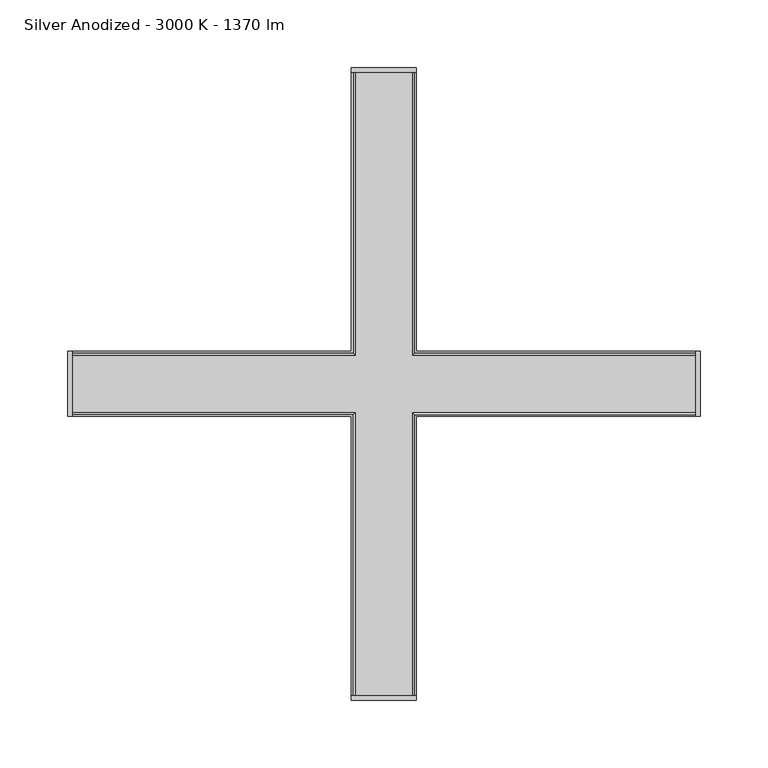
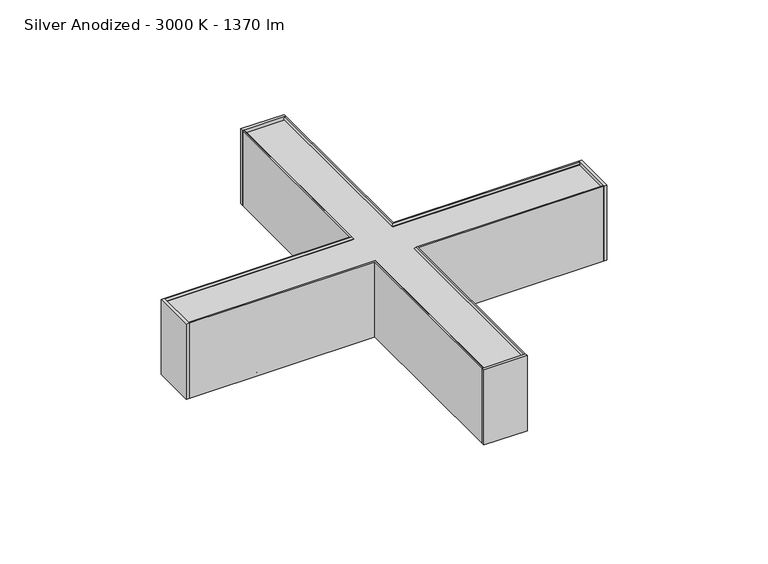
"""IFC4 building model written with IfcOpenShell, lengths in millimetres: light fixture geometry, KLUŚ - SERPENT - NT X90 : Silver Anodized - 3000 K - 1370 lm."""

from ifc_helpers import new_model, si_unit, point, frame, frame_2d, origin, origin_with_axes, place, context, project, spatial, polyline, circle_curve, trimmed, segment, composite_curve, outline, extrude, faceted_brep, source, transform, mapped, element, save
from ifc_brep_helpers import plane_surface, revolved_surface, advanced_brep


def silver_anodized_3000_k_1370_lm_3ce2196c(model_context):
    return source(origin(), model_context, "Body", "SolidModel", [
        extrude(outline(polyline([(-24.0, 233.5), (24.0, 233.5), (24.0, 230.0), (-24.0, 230.0), (-24.0, 233.5)])), frame((0.0, 0.0, 5.0), z_axis=(0.0, 0.0, 1.0), x_axis=(1.0, 0.0, 0.0)), (0.0, 0.0, 1.0), 88.0),
        advanced_brep(
        [(4.0, 166.0, 0.8), (4.0, 166.0, 0.0), (-4.0, 166.0, 0.0), (-4.0, 166.0, 0.8), (14.0, 180.0, 0.0), (-14.0, 180.0, 0.0), (-19.95, 180.0, 5.3344882), (-19.95, 180.0, 14.5), (-19.15, 180.0, 14.5), (-19.15, 180.0, 5.691693), (-13.6938864, 180.0, 0.8), (13.6938864, 180.0, 0.8), (19.15, 180.0, 5.691693), (19.15, 180.0, 14.5), (19.95, 180.0, 14.5), (19.95, 180.0, 5.3344882), (14.0, 152.0, 0.0), (19.95, 152.0, 5.3344882), (19.95, 152.0, 14.5), (19.15, 152.0, 14.5), (19.15, 152.0, 5.691693), (13.6938864, 152.0, 0.8), (-13.6938864, 152.0, 0.8), (-19.15, 152.0, 5.691693), (-19.15, 152.0, 14.5), (-19.95, 152.0, 14.5), (-19.95, 152.0, 5.3344882), (-14.0, 152.0, 0.0)],
        [
            (0, 1),
            (1, 2, circle_curve(frame((0.0, 166.0, 0.0), z_axis=(0.0, 0.0, -1.0), x_axis=(1.0, 0.0, 0.0)), 4.0)),
            (2, 3),
            (3, 0, circle_curve(frame((0.0, 166.0, 0.8), z_axis=(0.0, 0.0, 1.0), x_axis=(1.0, 0.0, 0.0)), 4.0)),
            (0, 3, circle_curve(frame((0.0, 166.0, 0.8), z_axis=(0.0, 0.0, 1.0), x_axis=(1.0, 0.0, 0.0)), 4.0)),
            (2, 1, circle_curve(frame((0.0, 166.0, 0.0), z_axis=(0.0, 0.0, -1.0), x_axis=(1.0, 0.0, 0.0)), 4.0)),
            (4, 5),
            (5, 6),
            (6, 7),
            (7, 8),
            (8, 9),
            (9, 10),
            (10, 11),
            (11, 12),
            (12, 13),
            (13, 14),
            (14, 15),
            (15, 4),
            (16, 17),
            (17, 18),
            (18, 19),
            (19, 20),
            (20, 21),
            (21, 22),
            (22, 23),
            (23, 24),
            (24, 25),
            (25, 26),
            (26, 27),
            (27, 16),
            (4, 16),
            (27, 5),
            (26, 6),
            (25, 7),
            (24, 8),
            (23, 9),
            (22, 10),
            (21, 11),
            (20, 12),
            (19, 13),
            (18, 14),
            (17, 15),
        ],
        [
            revolved_surface(polyline([(4.0, 166.0, 0.8), (4.0, 166.0, 0.0)]), (0.0, 166.0, 0.0), (0.0, 0.0, 1.0)),
            plane_surface(frame((0.0, 180.0, 0.0), z_axis=(0.0, 1.0, 0.0), x_axis=(0.0, 0.0, 1.0))),
            plane_surface(frame((0.0, 152.0, 0.0), z_axis=(0.0, -1.0, 0.0), x_axis=(0.0, 0.0, 1.0))),
            plane_surface(frame((14.0, 180.0, 0.0), z_axis=(0.0, 0.0, -1.0), x_axis=(0.0, -1.0, 0.0))),
            plane_surface(frame((-14.0, 180.0, 0.0), z_axis=(-0.6675453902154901, 0.0, -0.744569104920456), x_axis=(0.0, -1.0, 0.0))),
            plane_surface(frame((-19.95, 180.0, 5.3344882), z_axis=(-1.0, 0.0, 0.0), x_axis=(0.0, -1.0, 0.0))),
            plane_surface(frame((-19.95, 180.0, 14.5), z_axis=(0.0, 0.0, 1.0), x_axis=(0.0, -1.0, 0.0))),
            plane_surface(frame((-19.15, 180.0, 14.5), z_axis=(1.0, 0.0, 0.0), x_axis=(0.0, -1.0, 0.0))),
            plane_surface(frame((-19.15, 180.0, 5.691693), z_axis=(0.6675453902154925, 0.0, 0.7445691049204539), x_axis=(0.0, -1.0, 0.0))),
            plane_surface(frame((-13.6938864, 180.0, 0.8), z_axis=(0.0, 0.0, 1.0), x_axis=(0.0, -1.0, 0.0))),
            plane_surface(frame((13.6938864, 180.0, 0.8), z_axis=(-0.6675453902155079, 0.0, 0.7445691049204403), x_axis=(0.0, -1.0, 0.0))),
            plane_surface(frame((19.15, 180.0, 5.691693), z_axis=(-1.0, 0.0, 0.0), x_axis=(0.0, -1.0, 0.0))),
            plane_surface(frame((19.15, 180.0, 14.5), z_axis=(0.0, 0.0, 1.0), x_axis=(0.0, -1.0, 0.0))),
            plane_surface(frame((19.95, 180.0, 14.5), z_axis=(1.0, 0.0, 0.0), x_axis=(0.0, -1.0, 0.0))),
            plane_surface(frame((19.95, 180.0, 5.3344882), z_axis=(0.6675453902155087, 0.0, -0.7445691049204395), x_axis=(0.0, -1.0, 0.0))),
        ],
        [
            (0, [[1, 2, 3, 4]]),
            (0, [[-1, 5, -3, 6]]),
            (1, [[7, 8, 9, 10, 11, 12, 13, 14, 15, 16, 17, 18]]),
            (2, [[19, 20, 21, 22, 23, 24, 25, 26, 27, 28, 29, 30]]),
            (3, [[-7, 31, -30, 32], [-2, -6]]),
            (4, [[-8, -32, -29, 33]]),
            (5, [[-9, -33, -28, 34]]),
            (6, [[-10, -34, -27, 35]]),
            (7, [[-11, -35, -26, 36]]),
            (8, [[-12, -36, -25, 37]]),
            (9, [[-13, -37, -24, 38], [-4, -5]]),
            (10, [[-14, -38, -23, 39]]),
            (11, [[-15, -39, -22, 40]]),
            (12, [[-16, -40, -21, 41]]),
            (13, [[-17, -41, -20, 42]]),
            (14, [[-18, -42, -19, -31]]),
        ],
    ),
        extrude(outline(polyline([(24.0, -233.5), (-24.0, -233.5), (-24.0, -230.0), (24.0, -230.0), (24.0, -233.5)])), frame((0.0, 0.0, 5.0), z_axis=(0.0, 0.0, 1.0), x_axis=(1.0, 0.0, 0.0)), (0.0, 0.0, 1.0), 88.0),
        extrude(outline(polyline([(233.5, 24.0), (233.5, -24.0), (230.0, -24.0), (230.0, 24.0), (233.5, 24.0)])), frame((0.0, 0.0, 5.0), z_axis=(0.0, 0.0, 1.0), x_axis=(1.0, 0.0, 0.0)), (0.0, 0.0, 1.0), 88.0),
        advanced_brep(
        [(-166.0, 4.0, 0.8), (-166.0, 4.0, 0.0), (-166.0, -4.0, 0.0), (-166.0, -4.0, 0.8), (-180.0, 14.0, 0.0), (-180.0, -14.0, 0.0), (-180.0, -19.95, 5.3344882), (-180.0, -19.95, 14.5), (-180.0, -19.15, 14.5), (-180.0, -19.15, 5.691693), (-180.0, -13.6938864, 0.8), (-180.0, 13.6938864, 0.8), (-180.0, 19.15, 5.691693), (-180.0, 19.15, 14.5), (-180.0, 19.95, 14.5), (-180.0, 19.95, 5.3344882), (-152.0, 14.0, 0.0), (-152.0, 19.95, 5.3344882), (-152.0, 19.95, 14.5), (-152.0, 19.15, 14.5), (-152.0, 19.15, 5.691693), (-152.0, 13.6938864, 0.8), (-152.0, -13.6938864, 0.8), (-152.0, -19.15, 5.691693), (-152.0, -19.15, 14.5), (-152.0, -19.95, 14.5), (-152.0, -19.95, 5.3344882), (-152.0, -14.0, 0.0)],
        [
            (0, 1),
            (1, 2, circle_curve(frame((-166.0, 0.0, 0.0), z_axis=(0.0, 0.0, -1.0), x_axis=(0.0, 1.0, 0.0)), 4.0)),
            (2, 3),
            (3, 0, circle_curve(frame((-166.0, 0.0, 0.8), z_axis=(0.0, 0.0, 1.0), x_axis=(0.0, 1.0, 0.0)), 4.0)),
            (0, 3, circle_curve(frame((-166.0, 0.0, 0.8), z_axis=(0.0, 0.0, 1.0), x_axis=(0.0, 1.0, 0.0)), 4.0)),
            (2, 1, circle_curve(frame((-166.0, 0.0, 0.0), z_axis=(0.0, 0.0, -1.0), x_axis=(0.0, 1.0, 0.0)), 4.0)),
            (4, 5),
            (5, 6),
            (6, 7),
            (7, 8),
            (8, 9),
            (9, 10),
            (10, 11),
            (11, 12),
            (12, 13),
            (13, 14),
            (14, 15),
            (15, 4),
            (16, 17),
            (17, 18),
            (18, 19),
            (19, 20),
            (20, 21),
            (21, 22),
            (22, 23),
            (23, 24),
            (24, 25),
            (25, 26),
            (26, 27),
            (27, 16),
            (4, 16),
            (27, 5),
            (26, 6),
            (25, 7),
            (24, 8),
            (23, 9),
            (22, 10),
            (21, 11),
            (20, 12),
            (19, 13),
            (18, 14),
            (17, 15),
        ],
        [
            revolved_surface(polyline([(-166.0, 4.0, 0.8), (-166.0, 4.0, 0.0)]), (-166.0, 0.0, 0.0), (0.0, 0.0, 1.0)),
            plane_surface(frame((-180.0, 0.0, 0.0), z_axis=(-1.0, 0.0, 0.0), x_axis=(0.0, 0.0, 1.0))),
            plane_surface(frame((-152.0, 0.0, 0.0), z_axis=(1.0, 0.0, 0.0), x_axis=(0.0, 0.0, 1.0))),
            plane_surface(frame((-180.0, 14.0, 0.0), z_axis=(0.0, 0.0, -1.0), x_axis=(1.0, 0.0, 0.0))),
            plane_surface(frame((-180.0, -14.0, 0.0), z_axis=(0.0, -0.6675453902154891, -0.744569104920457), x_axis=(1.0, 0.0, 0.0))),
            plane_surface(frame((-180.0, -19.95, 5.3344882), z_axis=(0.0, -1.0, 0.0), x_axis=(1.0, 0.0, 0.0))),
            plane_surface(frame((-180.0, -19.95, 14.5), z_axis=(0.0, 0.0, 1.0), x_axis=(1.0, 0.0, 0.0))),
            plane_surface(frame((-180.0, -19.15, 14.5), z_axis=(0.0, 1.0, 0.0), x_axis=(1.0, 0.0, 0.0))),
            plane_surface(frame((-180.0, -19.15, 5.691693), z_axis=(0.0, 0.6675453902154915, 0.7445691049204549), x_axis=(1.0, 0.0, 0.0))),
            plane_surface(frame((-180.0, -13.6938864, 0.8), z_axis=(0.0, 0.0, 1.0), x_axis=(1.0, 0.0, 0.0))),
            plane_surface(frame((-180.0, 13.6938864, 0.8), z_axis=(0.0, -0.6675453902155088, 0.7445691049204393), x_axis=(1.0, 0.0, 0.0))),
            plane_surface(frame((-180.0, 19.15, 5.691693), z_axis=(0.0, -1.0, 0.0), x_axis=(1.0, 0.0, 0.0))),
            plane_surface(frame((-180.0, 19.15, 14.5), z_axis=(0.0, 0.0, 1.0), x_axis=(1.0, 0.0, 0.0))),
            plane_surface(frame((-180.0, 19.95, 14.5), z_axis=(0.0, 1.0, 0.0), x_axis=(1.0, 0.0, 0.0))),
            plane_surface(frame((-180.0, 19.95, 5.3344882), z_axis=(0.0, 0.6675453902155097, -0.7445691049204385), x_axis=(1.0, 0.0, 0.0))),
        ],
        [
            (0, [[1, 2, 3, 4]]),
            (0, [[-1, 5, -3, 6]]),
            (1, [[7, 8, 9, 10, 11, 12, 13, 14, 15, 16, 17, 18]]),
            (2, [[19, 20, 21, 22, 23, 24, 25, 26, 27, 28, 29, 30]]),
            (3, [[-7, 31, -30, 32], [-2, -6]]),
            (4, [[-8, -32, -29, 33]]),
            (5, [[-9, -33, -28, 34]]),
            (6, [[-10, -34, -27, 35]]),
            (7, [[-11, -35, -26, 36]]),
            (8, [[-12, -36, -25, 37]]),
            (9, [[-13, -37, -24, 38], [-4, -5]]),
            (10, [[-14, -38, -23, 39]]),
            (11, [[-15, -39, -22, 40]]),
            (12, [[-16, -40, -21, 41]]),
            (13, [[-17, -41, -20, 42]]),
            (14, [[-18, -42, -19, -31]]),
        ],
    ),
        advanced_brep(
        [(4.0, -166.0, 0.8), (4.0, -166.0, 0.0), (-4.0, -166.0, 0.0), (-4.0, -166.0, 0.8), (14.0, -152.0, 0.0), (-14.0, -152.0, 0.0), (-19.95, -152.0, 5.3344882), (-19.95, -152.0, 14.5), (-19.15, -152.0, 14.5), (-19.15, -152.0, 5.691693), (-13.6938864, -152.0, 0.8), (13.6938864, -152.0, 0.8), (19.15, -152.0, 5.691693), (19.15, -152.0, 14.5), (19.95, -152.0, 14.5), (19.95, -152.0, 5.3344882), (14.0, -180.0, 0.0), (19.95, -180.0, 5.3344882), (19.95, -180.0, 14.5), (19.15, -180.0, 14.5), (19.15, -180.0, 5.691693), (13.6938864, -180.0, 0.8), (-13.6938864, -180.0, 0.8), (-19.15, -180.0, 5.691693), (-19.15, -180.0, 14.5), (-19.95, -180.0, 14.5), (-19.95, -180.0, 5.3344882), (-14.0, -180.0, 0.0)],
        [
            (0, 1),
            (1, 2, circle_curve(frame((0.0, -166.0, 0.0), z_axis=(0.0, 0.0, -1.0), x_axis=(1.0, 0.0, 0.0)), 4.0)),
            (2, 3),
            (3, 0, circle_curve(frame((0.0, -166.0, 0.8), z_axis=(0.0, 0.0, 1.0), x_axis=(1.0, 0.0, 0.0)), 4.0)),
            (0, 3, circle_curve(frame((0.0, -166.0, 0.8), z_axis=(0.0, 0.0, 1.0), x_axis=(1.0, 0.0, 0.0)), 4.0)),
            (2, 1, circle_curve(frame((0.0, -166.0, 0.0), z_axis=(0.0, 0.0, -1.0), x_axis=(1.0, 0.0, 0.0)), 4.0)),
            (4, 5),
            (5, 6),
            (6, 7),
            (7, 8),
            (8, 9),
            (9, 10),
            (10, 11),
            (11, 12),
            (12, 13),
            (13, 14),
            (14, 15),
            (15, 4),
            (16, 17),
            (17, 18),
            (18, 19),
            (19, 20),
            (20, 21),
            (21, 22),
            (22, 23),
            (23, 24),
            (24, 25),
            (25, 26),
            (26, 27),
            (27, 16),
            (4, 16),
            (27, 5),
            (26, 6),
            (25, 7),
            (24, 8),
            (23, 9),
            (22, 10),
            (21, 11),
            (20, 12),
            (19, 13),
            (18, 14),
            (17, 15),
        ],
        [
            revolved_surface(polyline([(4.0, -166.0, 0.8), (4.0, -166.0, 0.0)]), (0.0, -166.0, 0.0), (0.0, 0.0, 1.0)),
            plane_surface(frame((0.0, -152.0, 0.0), z_axis=(0.0, 1.0, 0.0), x_axis=(0.0, 0.0, 1.0))),
            plane_surface(frame((0.0, -180.0, 0.0), z_axis=(0.0, -1.0, 0.0), x_axis=(0.0, 0.0, 1.0))),
            plane_surface(frame((14.0, -152.0, 0.0), z_axis=(0.0, 0.0, -1.0), x_axis=(0.0, -1.0, 0.0))),
            plane_surface(frame((-14.0, -152.0, 0.0), z_axis=(-0.6675453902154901, 0.0, -0.744569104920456), x_axis=(0.0, -1.0, 0.0))),
            plane_surface(frame((-19.95, -152.0, 5.3344882), z_axis=(-1.0, 0.0, 0.0), x_axis=(0.0, -1.0, 0.0))),
            plane_surface(frame((-19.95, -152.0, 14.5), z_axis=(0.0, 0.0, 1.0), x_axis=(0.0, -1.0, 0.0))),
            plane_surface(frame((-19.15, -152.0, 14.5), z_axis=(1.0, 0.0, 0.0), x_axis=(0.0, -1.0, 0.0))),
            plane_surface(frame((-19.15, -152.0, 5.691693), z_axis=(0.6675453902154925, 0.0, 0.7445691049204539), x_axis=(0.0, -1.0, 0.0))),
            plane_surface(frame((-13.6938864, -152.0, 0.8), z_axis=(0.0, 0.0, 1.0), x_axis=(0.0, -1.0, 0.0))),
            plane_surface(frame((13.6938864, -152.0, 0.8), z_axis=(-0.6675453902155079, 0.0, 0.7445691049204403), x_axis=(0.0, -1.0, 0.0))),
            plane_surface(frame((19.15, -152.0, 5.691693), z_axis=(-1.0, 0.0, 0.0), x_axis=(0.0, -1.0, 0.0))),
            plane_surface(frame((19.15, -152.0, 14.5), z_axis=(0.0, 0.0, 1.0), x_axis=(0.0, -1.0, 0.0))),
            plane_surface(frame((19.95, -152.0, 14.5), z_axis=(1.0, 0.0, 0.0), x_axis=(0.0, -1.0, 0.0))),
            plane_surface(frame((19.95, -152.0, 5.3344882), z_axis=(0.6675453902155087, 0.0, -0.7445691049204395), x_axis=(0.0, -1.0, 0.0))),
        ],
        [
            (0, [[1, 2, 3, 4]]),
            (0, [[-1, 5, -3, 6]]),
            (1, [[7, 8, 9, 10, 11, 12, 13, 14, 15, 16, 17, 18]]),
            (2, [[19, 20, 21, 22, 23, 24, 25, 26, 27, 28, 29, 30]]),
            (3, [[-7, 31, -30, 32], [-2, -6]]),
            (4, [[-8, -32, -29, 33]]),
            (5, [[-9, -33, -28, 34]]),
            (6, [[-10, -34, -27, 35]]),
            (7, [[-11, -35, -26, 36]]),
            (8, [[-12, -36, -25, 37]]),
            (9, [[-13, -37, -24, 38], [-4, -5]]),
            (10, [[-14, -38, -23, 39]]),
            (11, [[-15, -39, -22, 40]]),
            (12, [[-16, -40, -21, 41]]),
            (13, [[-17, -41, -20, 42]]),
            (14, [[-18, -42, -19, -31]]),
        ],
    ),
        extrude(outline(polyline([(-233.5, -24.0), (-233.5, 24.0), (-230.0, 24.0), (-230.0, -24.0), (-233.5, -24.0)])), frame((0.0, 0.0, 5.0), z_axis=(0.0, 0.0, 1.0), x_axis=(1.0, 0.0, 0.0)), (0.0, 0.0, 1.0), 88.0),
        advanced_brep(
        [(166.0, -4.0, 0.8), (166.0, -4.0, 0.0), (166.0, 4.0, 0.0), (166.0, 4.0, 0.8), (180.0, -14.0, 0.0), (180.0, 14.0, 0.0), (180.0, 19.95, 5.3344882), (180.0, 19.95, 14.5), (180.0, 19.15, 14.5), (180.0, 19.15, 5.691693), (180.0, 13.6938864, 0.8), (180.0, -13.6938864, 0.8), (180.0, -19.15, 5.691693), (180.0, -19.15, 14.5), (180.0, -19.95, 14.5), (180.0, -19.95, 5.3344882), (152.0, -14.0, 0.0), (152.0, -19.95, 5.3344882), (152.0, -19.95, 14.5), (152.0, -19.15, 14.5), (152.0, -19.15, 5.691693), (152.0, -13.6938864, 0.8), (152.0, 13.6938864, 0.8), (152.0, 19.15, 5.691693), (152.0, 19.15, 14.5), (152.0, 19.95, 14.5), (152.0, 19.95, 5.3344882), (152.0, 14.0, 0.0)],
        [
            (0, 1),
            (1, 2, circle_curve(frame((166.0, 0.0, 0.0), z_axis=(0.0, 0.0, -1.0), x_axis=(0.0, -1.0, 0.0)), 4.0)),
            (2, 3),
            (3, 0, circle_curve(frame((166.0, 0.0, 0.8), z_axis=(0.0, 0.0, 1.0), x_axis=(0.0, -1.0, 0.0)), 4.0)),
            (0, 3, circle_curve(frame((166.0, 0.0, 0.8), z_axis=(0.0, 0.0, 1.0), x_axis=(0.0, -1.0, 0.0)), 4.0)),
            (2, 1, circle_curve(frame((166.0, 0.0, 0.0), z_axis=(0.0, 0.0, -1.0), x_axis=(0.0, -1.0, 0.0)), 4.0)),
            (4, 5),
            (5, 6),
            (6, 7),
            (7, 8),
            (8, 9),
            (9, 10),
            (10, 11),
            (11, 12),
            (12, 13),
            (13, 14),
            (14, 15),
            (15, 4),
            (16, 17),
            (17, 18),
            (18, 19),
            (19, 20),
            (20, 21),
            (21, 22),
            (22, 23),
            (23, 24),
            (24, 25),
            (25, 26),
            (26, 27),
            (27, 16),
            (4, 16),
            (27, 5),
            (26, 6),
            (25, 7),
            (24, 8),
            (23, 9),
            (22, 10),
            (21, 11),
            (20, 12),
            (19, 13),
            (18, 14),
            (17, 15),
        ],
        [
            revolved_surface(polyline([(166.0, -4.0, 0.8), (166.0, -4.0, 0.0)]), (166.0, 0.0, 0.0), (0.0, 0.0, 1.0)),
            plane_surface(frame((180.0, 0.0, 0.0), z_axis=(1.0, 0.0, 0.0), x_axis=(0.0, 0.0, 1.0))),
            plane_surface(frame((152.0, 0.0, 0.0), z_axis=(-1.0, 0.0, 0.0), x_axis=(0.0, 0.0, 1.0))),
            plane_surface(frame((180.0, -14.0, 0.0), z_axis=(0.0, 0.0, -1.0), x_axis=(-1.0, 0.0, 0.0))),
            plane_surface(frame((180.0, 14.0, 0.0), z_axis=(0.0, 0.6675453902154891, -0.744569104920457), x_axis=(-1.0, 0.0, 0.0))),
            plane_surface(frame((180.0, 19.95, 5.3344882), z_axis=(0.0, 1.0, 0.0), x_axis=(-1.0, 0.0, 0.0))),
            plane_surface(frame((180.0, 19.95, 14.5), z_axis=(0.0, 0.0, 1.0), x_axis=(-1.0, 0.0, 0.0))),
            plane_surface(frame((180.0, 19.15, 14.5), z_axis=(0.0, -1.0, 0.0), x_axis=(-1.0, 0.0, 0.0))),
            plane_surface(frame((180.0, 19.15, 5.691693), z_axis=(0.0, -0.6675453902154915, 0.7445691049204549), x_axis=(-1.0, 0.0, 0.0))),
            plane_surface(frame((180.0, 13.6938864, 0.8), z_axis=(0.0, 0.0, 1.0), x_axis=(-1.0, 0.0, 0.0))),
            plane_surface(frame((180.0, -13.6938864, 0.8), z_axis=(0.0, 0.6675453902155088, 0.7445691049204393), x_axis=(-1.0, 0.0, 0.0))),
            plane_surface(frame((180.0, -19.15, 5.691693), z_axis=(0.0, 1.0, 0.0), x_axis=(-1.0, 0.0, 0.0))),
            plane_surface(frame((180.0, -19.15, 14.5), z_axis=(0.0, 0.0, 1.0), x_axis=(-1.0, 0.0, 0.0))),
            plane_surface(frame((180.0, -19.95, 14.5), z_axis=(0.0, -1.0, 0.0), x_axis=(-1.0, 0.0, 0.0))),
            plane_surface(frame((180.0, -19.95, 5.3344882), z_axis=(0.0, -0.6675453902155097, -0.7445691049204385), x_axis=(-1.0, 0.0, 0.0))),
        ],
        [
            (0, [[1, 2, 3, 4]]),
            (0, [[-1, 5, -3, 6]]),
            (1, [[7, 8, 9, 10, 11, 12, 13, 14, 15, 16, 17, 18]]),
            (2, [[19, 20, 21, 22, 23, 24, 25, 26, 27, 28, 29, 30]]),
            (3, [[-7, 31, -30, 32], [-2, -6]]),
            (4, [[-8, -32, -29, 33]]),
            (5, [[-9, -33, -28, 34]]),
            (6, [[-10, -34, -27, 35]]),
            (7, [[-11, -35, -26, 36]]),
            (8, [[-12, -36, -25, 37]]),
            (9, [[-13, -37, -24, 38], [-4, -5]]),
            (10, [[-14, -38, -23, 39]]),
            (11, [[-15, -39, -22, 40]]),
            (12, [[-16, -40, -21, 41]]),
            (13, [[-17, -41, -20, 42]]),
            (14, [[-18, -42, -19, -31]]),
        ],
    ),
        faceted_brep([(230.0, 19.95, 5.0), (230.0, 24.0, 5.0), (230.0, 24.0, 93.0), (230.0, 22.65, 93.0), (230.0, 21.1049132, 91.1989148), (230.0, 22.65, 89.5), (230.0, 22.65, 13.7), (230.0, 19.95, 13.7), (19.95, 230.0, 5.0), (19.95, 230.0, 13.7), (22.65, 230.0, 13.7), (22.65, 230.0, 89.5), (21.1049132, 230.0, 91.1989148), (22.65, 230.0, 93.0), (24.0, 230.0, 93.0), (24.0, 230.0, 5.0), (19.95, 19.95, 13.7), (19.95, 19.95, 5.0), (22.65, 22.65, 13.7), (22.65, 22.65, 89.5), (21.1049132, 21.1049132, 91.1989148), (22.65, 22.65, 93.0), (24.0, 24.0, 93.0), (24.0, 24.0, 5.0)], [[[0, 1, 2, 3, 4, 5, 6, 7]], [[8, 9, 10, 11, 12, 13, 14, 15]], [[0, 7, 16, 17]], [[7, 6, 18, 10, 9, 16]], [[6, 5, 19, 18]], [[5, 4, 20, 19]], [[4, 3, 21, 20]], [[3, 2, 22, 14, 13, 21]], [[2, 1, 23, 22]], [[1, 0, 17, 8, 15, 23]], [[17, 16, 9, 8]], [[18, 19, 11, 10]], [[19, 20, 12, 11]], [[20, 21, 13, 12]], [[22, 23, 15, 14]]]),
        faceted_brep([(230.0, -19.95, 5.0), (230.0, -19.95, 13.7), (230.0, -22.65, 13.7), (230.0, -22.65, 89.5), (230.0, -21.15, 91.2514719), (230.0, -22.65, 93.0), (230.0, -24.0, 93.0), (230.0, -24.0, 5.0), (19.95, -230.0, 5.0), (24.0, -230.0, 5.0), (24.0, -230.0, 93.0), (22.65, -230.0, 93.0), (21.15, -230.0, 91.2514719), (22.65, -230.0, 89.5), (22.65, -230.0, 13.7), (19.95, -230.0, 13.7), (19.95, -19.95, 5.0), (19.95, -19.95, 13.7), (22.65, -22.65, 13.7), (22.65, -22.65, 89.5), (21.15, -21.15, 91.2514719), (22.65, -22.65, 93.0), (24.0, -24.0, 93.0), (24.0, -24.0, 5.0)], [[[0, 1, 2, 3, 4, 5, 6, 7]], [[8, 9, 10, 11, 12, 13, 14, 15]], [[1, 0, 16, 17]], [[2, 1, 17, 15, 14, 18]], [[3, 2, 18, 19]], [[4, 3, 19, 20]], [[5, 4, 20, 21]], [[6, 5, 21, 11, 10, 22]], [[7, 6, 22, 23]], [[0, 7, 23, 9, 8, 16]], [[17, 16, 8, 15]], [[19, 18, 14, 13]], [[20, 19, 13, 12]], [[21, 20, 12, 11]], [[23, 22, 10, 9]]]),
        faceted_brep([(-19.95, -230.0, 5.0), (-19.95, -230.0, 13.7), (-22.65, -230.0, 13.7), (-22.65, -230.0, 89.5), (-21.15, -230.0, 91.2514719), (-22.65, -230.0, 93.0), (-24.0, -230.0, 93.0), (-24.0, -230.0, 5.0), (-230.0, -19.95, 5.0), (-230.0, -24.0, 5.0), (-230.0, -24.0, 93.0), (-230.0, -22.65, 93.0), (-230.0, -21.15, 91.2514719), (-230.0, -22.65, 89.5), (-230.0, -22.65, 13.7), (-230.0, -19.95, 13.7), (-19.95, -19.95, 5.0), (-19.95, -19.95, 13.7), (-22.65, -22.65, 13.7), (-22.65, -22.65, 89.5), (-21.15, -21.15, 91.2514719), (-22.65, -22.65, 93.0), (-24.0, -24.0, 93.0), (-24.0, -24.0, 5.0)], [[[0, 1, 2, 3, 4, 5, 6, 7]], [[8, 9, 10, 11, 12, 13, 14, 15]], [[1, 0, 16, 17]], [[2, 1, 17, 15, 14, 18]], [[3, 2, 18, 19]], [[4, 3, 19, 20]], [[5, 4, 20, 21]], [[6, 5, 21, 11, 10, 22]], [[7, 6, 22, 23]], [[0, 7, 23, 9, 8, 16]], [[17, 16, 8, 15]], [[19, 18, 14, 13]], [[20, 19, 13, 12]], [[21, 20, 12, 11]], [[23, 22, 10, 9]]]),
        extrude(outline(polyline([(-22.65, 230.0), (22.65, 230.0), (22.65, 22.65), (230.0, 22.65), (230.0, -22.65), (22.65, -22.65), (22.65, -230.0), (-22.65, -230.0), (-22.65, -22.65), (-230.0, -22.65), (-230.0, 22.65), (-22.65, 22.65), (-22.65, 230.0)])), frame((0.0, 0.0, 24.0), z_axis=(0.0, 0.0, 1.0), x_axis=(1.0, 0.0, 0.0)), (0.0, 0.0, 1.0), 2.0),
        extrude(outline(polyline([(-22.65, 230.0), (22.65, 230.0), (22.65, 22.65), (230.0, 22.65), (230.0, -22.65), (22.65, -22.65), (22.65, -230.0), (-22.65, -230.0), (-22.65, -22.65), (-230.0, -22.65), (-230.0, 22.65), (-22.65, 22.65), (-22.65, 230.0)])), frame((0.0, 0.0, 59.5), z_axis=(0.0, 0.0, 1.0), x_axis=(1.0, 0.0, 0.0)), (0.0, 0.0, 1.0), 1.5),
        extrude(outline(polyline([(-230.0, -22.65), (-230.0, 22.65), (-22.65, 22.65), (-22.65, 230.0), (22.65, 230.0), (22.65, 22.65), (230.0, 22.65), (230.0, -22.65), (22.65, -22.65), (22.65, -230.0), (-22.65, -230.0), (-22.65, -22.65), (-230.0, -22.65)])), frame((0.0, 0.0, 88.0), z_axis=(0.0, 0.0, 1.0), x_axis=(1.0, 0.0, 0.0)), (0.0, 0.0, 1.0), 1.5),
        faceted_brep([(-230.0, 19.95, 5.0), (-230.0, 19.95, 13.7), (-230.0, 22.65, 13.7), (-230.0, 22.65, 89.5), (-230.0, 21.1049132, 91.1989148), (-230.0, 22.65, 93.0), (-230.0, 24.0, 93.0), (-230.0, 24.0, 5.0), (-19.95, 230.0, 5.0), (-24.0, 230.0, 5.0), (-24.0, 230.0, 93.0), (-22.65, 230.0, 93.0), (-21.1049132, 230.0, 91.1989148), (-22.65, 230.0, 89.5), (-22.65, 230.0, 13.7), (-19.95, 230.0, 13.7), (-19.95, 19.95, 5.0), (-19.95, 19.95, 13.7), (-22.65, 22.65, 13.7), (-22.65, 22.65, 89.5), (-21.1049132, 21.1049132, 91.1989148), (-22.65, 22.65, 93.0), (-24.0, 24.0, 93.0), (-24.0, 24.0, 5.0)], [[[0, 1, 2, 3, 4, 5, 6, 7]], [[8, 9, 10, 11, 12, 13, 14, 15]], [[1, 0, 16, 17]], [[2, 1, 17, 15, 14, 18]], [[3, 2, 18, 19]], [[4, 3, 19, 20]], [[5, 4, 20, 21]], [[6, 5, 21, 11, 10, 22]], [[7, 6, 22, 23]], [[0, 7, 23, 9, 8, 16]], [[17, 16, 8, 15]], [[19, 18, 14, 13]], [[20, 19, 13, 12]], [[21, 20, 12, 11]], [[23, 22, 10, 9]]]),
        extrude(outline(composite_curve([segment(trimmed(circle_curve(frame_2d((144.0, 0.0)), 2.5), [point((146.5, 0.0))], [point((141.5, 0.0))], False, "CARTESIAN"), True, "CONTINUOUS"), segment(trimmed(circle_curve(frame_2d((144.0, 0.0)), 2.5), [point((141.5, 0.0))], [point((146.5, 0.0))], False, "CARTESIAN"), True, "CONTINUOUS")], self_intersect=False)), origin_with_axes(), (0.0, 0.0, 1.0), 24.0),
    ])


if __name__ == "__main__":
    model = new_model("IFC4")
    model_context = context("Model", 3, world=origin())
    ifc_project = project(units=[si_unit("LENGTHUNIT", "METRE", prefix="MILLI")], contexts=[model_context])
    site = spatial("IfcSite", under=ifc_project)
    building = spatial("IfcBuilding", under=site)
    placement = place(None, origin())
    silver_anodized_3000_k_1370_lm_shape = silver_anodized_3000_k_1370_lm_3ce2196c(model_context)
    element("IfcLightFixture", 1, ObjectType="KLUŚ - SERPENT - NT X90 : Silver Anodized - 3000 K - 1370 lm", at=placement, inside=building, context=model_context, shape_type="MappedRepresentation", body=[
        mapped(silver_anodized_3000_k_1370_lm_shape, transform((0.0, 0.0, 0.0), x_axis=(1.0, 0.0, 0.0), y_axis=(0.0, 1.0, 0.0), z_axis=(0.0, 0.0, 1.0))),
    ])
    save(model, "model.ifc")
